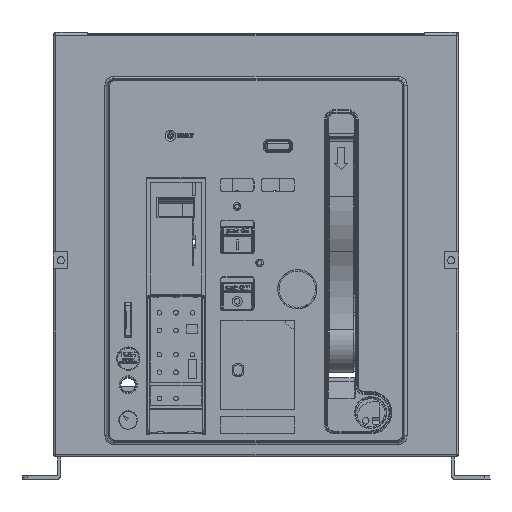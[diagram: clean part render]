
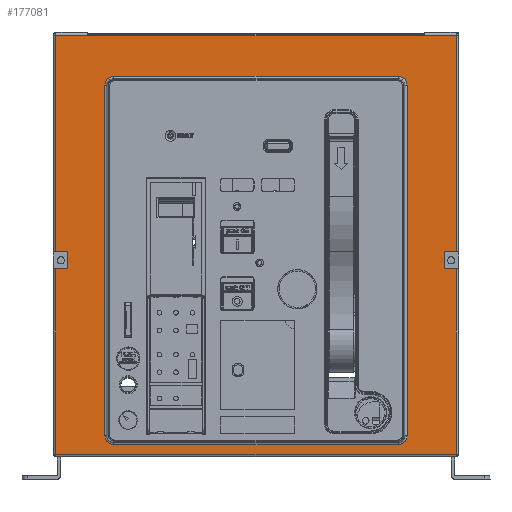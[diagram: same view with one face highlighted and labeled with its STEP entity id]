
A CAD part, top view. The second image highlights one B-rep face of the part: STEP entity #177081.
In plain terms, the highlighted planar face has unit normal (0, 0, 1).
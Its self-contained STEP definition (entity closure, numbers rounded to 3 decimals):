
#157832=DIRECTION('',(0.,1.,0.));
#157833=VECTOR('',#157832,15.4);
#157834=CARTESIAN_POINT('',(-170.5,-21.15,49.));
#157835=LINE('',#157834,#157833);
#157836=DIRECTION('',(-1.,0.,0.));
#157837=VECTOR('',#157836,11.017);
#157838=CARTESIAN_POINT('',(-170.5,-5.75,49.));
#157839=LINE('',#157838,#157837);
#157840=DIRECTION('',(1.,0.,0.));
#157841=VECTOR('',#157840,11.017);
#157842=CARTESIAN_POINT('',(170.5,-21.15,49.));
#157843=LINE('',#157842,#157841);
#157844=CARTESIAN_POINT('',(-136.965,-172.617,
49.));
#157845=CARTESIAN_POINT('',(-136.965,-173.333,
49.));
#157846=CARTESIAN_POINT('',(-136.78,-174.71,
49.));
#157847=CARTESIAN_POINT('',(-135.971,-176.668,
49.));
#157848=CARTESIAN_POINT('',(-134.687,-178.337,
49.));
#157849=CARTESIAN_POINT('',(-133.019,-179.62,
49.));
#157850=CARTESIAN_POINT('',(-131.06,-180.43,
49.));
#157851=CARTESIAN_POINT('',(-129.683,-180.615,
49.));
#157852=CARTESIAN_POINT('',(-128.967,-180.615,
49.));
#157854=CARTESIAN_POINT('',(128.967,-180.615,
49.));
#157855=CARTESIAN_POINT('',(129.683,-180.615,
49.));
#157856=CARTESIAN_POINT('',(131.06,-180.43,
49.));
#157857=CARTESIAN_POINT('',(133.018,-179.621,
49.));
#157858=CARTESIAN_POINT('',(134.687,-178.337,
49.));
#157859=CARTESIAN_POINT('',(135.97,-176.669,
49.));
#157860=CARTESIAN_POINT('',(136.78,-174.71,
49.));
#157861=CARTESIAN_POINT('',(136.965,-173.333,
49.));
#157862=CARTESIAN_POINT('',(136.965,-172.617,
49.));
#157864=CARTESIAN_POINT('',(136.965,145.317,
49.));
#157865=CARTESIAN_POINT('',(136.965,146.033,
49.));
#157866=CARTESIAN_POINT('',(136.78,147.41,
49.));
#157867=CARTESIAN_POINT('',(135.971,149.368,
49.));
#157868=CARTESIAN_POINT('',(134.687,151.037,
49.));
#157869=CARTESIAN_POINT('',(133.019,152.32,
49.));
#157870=CARTESIAN_POINT('',(131.06,153.13,
49.));
#157871=CARTESIAN_POINT('',(129.683,153.315,
49.));
#157872=CARTESIAN_POINT('',(128.967,153.315,
49.));
#157874=CARTESIAN_POINT('',(-128.967,153.315,
49.));
#157875=CARTESIAN_POINT('',(-129.683,153.315,
49.));
#157876=CARTESIAN_POINT('',(-131.06,153.13,
49.));
#157877=CARTESIAN_POINT('',(-133.018,152.321,
49.));
#157878=CARTESIAN_POINT('',(-134.687,151.037,
49.));
#157879=CARTESIAN_POINT('',(-135.97,149.369,
49.));
#157880=CARTESIAN_POINT('',(-136.78,147.41,
49.));
#157881=CARTESIAN_POINT('',(-136.965,146.033,
49.));
#157882=CARTESIAN_POINT('',(-136.965,145.317,
49.));
#157884=DIRECTION('',(0.,1.,0.));
#157885=VECTOR('',#157884,168.5);
#157886=CARTESIAN_POINT('',(181.517,-189.65,49.));
#157887=LINE('',#157886,#157885);
#158000=DIRECTION('',(0.,1.,0.));
#158001=VECTOR('',#158000,15.4);
#158002=CARTESIAN_POINT('',(170.5,-21.15,49.));
#158003=LINE('',#158002,#158001);
#158017=DIRECTION('',(1.,0.,0.));
#158018=VECTOR('',#158017,11.017);
#158019=CARTESIAN_POINT('',(170.5,-5.75,49.));
#158020=LINE('',#158019,#158018);
#158021=DIRECTION('',(0.,1.,0.));
#158022=VECTOR('',#158021,196.517);
#158023=CARTESIAN_POINT('',(181.517,-5.75,49.));
#158024=LINE('',#158023,#158022);
#158052=DIRECTION('',(-1.,0.,0.));
#158053=VECTOR('',#158052,363.035);
#158054=CARTESIAN_POINT('',(181.517,190.767,49.));
#158055=LINE('',#158054,#158053);
#160666=DIRECTION('',(1.,0.,0.));
#160667=VECTOR('',#160666,363.035);
#160668=CARTESIAN_POINT('',(-181.517,-189.65,49.));
#160669=LINE('',#160668,#160667);
#160689=DIRECTION('',(0.,-1.,0.));
#160690=VECTOR('',#160689,168.5);
#160691=CARTESIAN_POINT('',(-181.517,-21.15,49.));
#160692=LINE('',#160691,#160690);
#160710=DIRECTION('',(-1.,0.,0.));
#160711=VECTOR('',#160710,11.017);
#160712=CARTESIAN_POINT('',(-170.5,-21.15,49.));
#160713=LINE('',#160712,#160711);
#160741=DIRECTION('',(0.,-1.,0.));
#160742=VECTOR('',#160741,196.517);
#160743=CARTESIAN_POINT('',(-181.517,190.767,49.));
#160744=LINE('',#160743,#160742);
#163370=DIRECTION('',(-1.,0.,0.));
#163371=VECTOR('',#163370,257.933);
#163372=CARTESIAN_POINT('',(128.967,-180.615,
49.));
#163373=LINE('',#163372,#163371);
#163388=DIRECTION('',(0.,-1.,0.));
#163389=VECTOR('',#163388,317.933);
#163390=CARTESIAN_POINT('',(136.965,145.317,
49.));
#163391=LINE('',#163390,#163389);
#163406=DIRECTION('',(1.,0.,0.));
#163407=VECTOR('',#163406,257.933);
#163408=CARTESIAN_POINT('',(-128.967,153.315,
49.));
#163409=LINE('',#163408,#163407);
#163424=DIRECTION('',(0.,1.,0.));
#163425=VECTOR('',#163424,317.933);
#163426=CARTESIAN_POINT('',(-136.965,-172.617,
49.));
#163427=LINE('',#163426,#163425);
#172985=CARTESIAN_POINT('',(181.517,-189.65,49.));
#172986=CARTESIAN_POINT('',(181.517,-21.15,49.));
#172987=VERTEX_POINT('',#172985);
#172988=VERTEX_POINT('',#172986);
#172989=CARTESIAN_POINT('',(-181.517,-189.65,49.));
#172990=VERTEX_POINT('',#172989);
#172991=CARTESIAN_POINT('',(-181.517,-21.15,49.));
#172992=VERTEX_POINT('',#172991);
#172993=CARTESIAN_POINT('',(-170.5,-21.15,49.));
#172994=VERTEX_POINT('',#172993);
#172995=CARTESIAN_POINT('',(-170.5,-5.75,49.));
#172996=VERTEX_POINT('',#172995);
#172997=CARTESIAN_POINT('',(-181.517,-5.75,49.));
#172998=VERTEX_POINT('',#172997);
#172999=CARTESIAN_POINT('',(-181.517,190.767,49.));
#173000=VERTEX_POINT('',#172999);
#173001=CARTESIAN_POINT('',(181.517,190.767,49.));
#173002=VERTEX_POINT('',#173001);
#173003=CARTESIAN_POINT('',(181.517,-5.75,49.));
#173004=VERTEX_POINT('',#173003);
#173005=CARTESIAN_POINT('',(170.5,-5.75,49.));
#173006=VERTEX_POINT('',#173005);
#173007=CARTESIAN_POINT('',(170.5,-21.15,49.));
#173008=VERTEX_POINT('',#173007);
#173009=CARTESIAN_POINT('',(-136.965,-172.617,
49.));
#173010=CARTESIAN_POINT('',(-136.965,145.317,
49.));
#173011=VERTEX_POINT('',#173009);
#173012=VERTEX_POINT('',#173010);
#173013=VERTEX_POINT('',#157852);
#173014=CARTESIAN_POINT('',(128.967,-180.615,
49.));
#173015=VERTEX_POINT('',#173014);
#173016=VERTEX_POINT('',#157862);
#173017=CARTESIAN_POINT('',(136.965,145.317,
49.));
#173018=VERTEX_POINT('',#173017);
#173019=VERTEX_POINT('',#157872);
#173020=CARTESIAN_POINT('',(-128.967,153.315,
49.));
#173021=VERTEX_POINT('',#173020);
#177032=CARTESIAN_POINT('',(0.,0.,49.));
#177033=DIRECTION('',(0.,0.,1.));
#177034=DIRECTION('',(1.,0.,0.));
#177035=AXIS2_PLACEMENT_3D('',#177032,#177033,#177034);
#177036=PLANE('',#177035);
#177038=ORIENTED_EDGE('',*,*,#177037,.F.);
#177040=ORIENTED_EDGE('',*,*,#177039,.F.);
#177042=ORIENTED_EDGE('',*,*,#177041,.F.);
#177044=ORIENTED_EDGE('',*,*,#177043,.F.);
#177046=ORIENTED_EDGE('',*,*,#177045,.T.);
#177048=ORIENTED_EDGE('',*,*,#177047,.T.);
#177050=ORIENTED_EDGE('',*,*,#177049,.F.);
#177052=ORIENTED_EDGE('',*,*,#177051,.F.);
#177054=ORIENTED_EDGE('',*,*,#177053,.F.);
#177056=ORIENTED_EDGE('',*,*,#177055,.F.);
#177058=ORIENTED_EDGE('',*,*,#177057,.F.);
#177060=ORIENTED_EDGE('',*,*,#177059,.T.);
#177061=EDGE_LOOP('',(#177038,#177040,#177042,#177044,#177046,#177048,#177050,
#177052,#177054,#177056,#177058,#177060));
#177062=FACE_OUTER_BOUND('',#177061,.F.);
#177064=ORIENTED_EDGE('',*,*,#177063,.F.);
#177066=ORIENTED_EDGE('',*,*,#177065,.T.);
#177068=ORIENTED_EDGE('',*,*,#177067,.F.);
#177070=ORIENTED_EDGE('',*,*,#177069,.T.);
#177072=ORIENTED_EDGE('',*,*,#177071,.F.);
#177074=ORIENTED_EDGE('',*,*,#177073,.T.);
#177076=ORIENTED_EDGE('',*,*,#177075,.F.);
#177078=ORIENTED_EDGE('',*,*,#177077,.T.);
#177079=EDGE_LOOP('',(#177064,#177066,#177068,#177070,#177072,#177074,#177076,
#177078));
#177080=FACE_BOUND('',#177079,.F.);
#177081=ADVANCED_FACE('',(#177062,#177080),#177036,.T.);
#157853=B_SPLINE_CURVE_WITH_KNOTS('',3,(#157844,#157845,#157846,#157847,#157848,
#157849,#157850,#157851,#157852),.UNSPECIFIED.,.F.,.F.,(4,1,1,1,1,1,4),(0.,
0.167,0.333,0.5,0.667,0.833,
1.),.UNSPECIFIED.);
#157863=B_SPLINE_CURVE_WITH_KNOTS('',3,(#157854,#157855,#157856,#157857,#157858,
#157859,#157860,#157861,#157862),.UNSPECIFIED.,.F.,.F.,(4,1,1,1,1,1,4),(0.,
0.167,0.333,0.5,0.667,0.833,
1.),.UNSPECIFIED.);
#157873=B_SPLINE_CURVE_WITH_KNOTS('',3,(#157864,#157865,#157866,#157867,#157868,
#157869,#157870,#157871,#157872),.UNSPECIFIED.,.F.,.F.,(4,1,1,1,1,1,4),(0.,
0.167,0.333,0.5,0.667,0.833,
1.),.UNSPECIFIED.);
#157883=B_SPLINE_CURVE_WITH_KNOTS('',3,(#157874,#157875,#157876,#157877,#157878,
#157879,#157880,#157881,#157882),.UNSPECIFIED.,.F.,.F.,(4,1,1,1,1,1,4),(0.,
0.167,0.333,0.5,0.667,0.833,
1.),.UNSPECIFIED.);
#177037=EDGE_CURVE('',#172987,#172988,#157887,.T.);
#177039=EDGE_CURVE('',#172990,#172987,#160669,.T.);
#177041=EDGE_CURVE('',#172992,#172990,#160692,.T.);
#177043=EDGE_CURVE('',#172994,#172992,#160713,.T.);
#177045=EDGE_CURVE('',#172994,#172996,#157835,.T.);
#177047=EDGE_CURVE('',#172996,#172998,#157839,.T.);
#177049=EDGE_CURVE('',#173000,#172998,#160744,.T.);
#177051=EDGE_CURVE('',#173002,#173000,#158055,.T.);
#177053=EDGE_CURVE('',#173004,#173002,#158024,.T.);
#177055=EDGE_CURVE('',#173006,#173004,#158020,.T.);
#177057=EDGE_CURVE('',#173008,#173006,#158003,.T.);
#177059=EDGE_CURVE('',#173008,#172988,#157843,.T.);
#177063=EDGE_CURVE('',#173011,#173012,#163427,.T.);
#177065=EDGE_CURVE('',#173011,#173013,#157853,.T.);
#177067=EDGE_CURVE('',#173015,#173013,#163373,.T.);
#177069=EDGE_CURVE('',#173015,#173016,#157863,.T.);
#177071=EDGE_CURVE('',#173018,#173016,#163391,.T.);
#177073=EDGE_CURVE('',#173018,#173019,#157873,.T.);
#177075=EDGE_CURVE('',#173021,#173019,#163409,.T.);
#177077=EDGE_CURVE('',#173021,#173012,#157883,.T.);
